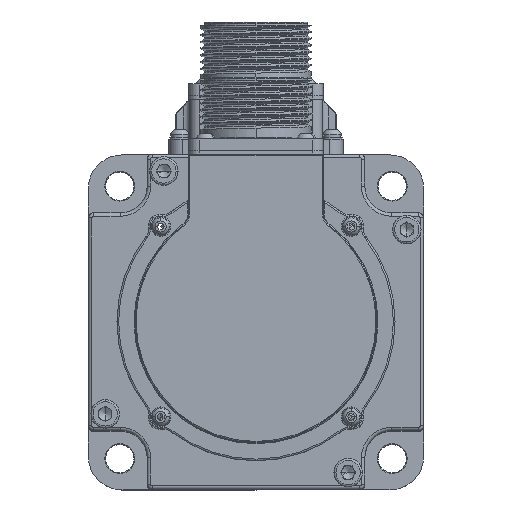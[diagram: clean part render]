
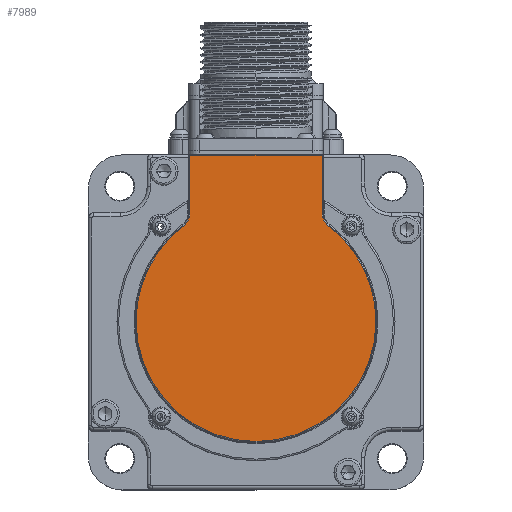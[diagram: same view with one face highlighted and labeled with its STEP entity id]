
A CAD part, top view. The second image highlights one B-rep face of the part: STEP entity #7989.
In plain terms, the highlighted planar face has unit normal (0, 0, 1).
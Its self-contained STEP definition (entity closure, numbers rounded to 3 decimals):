
#2034 = ORIENTED_EDGE ( 'NONE', *, *, #56563, .T. ) ;
#5311 = CARTESIAN_POINT ( 'NONE',  ( -32.072, 39.959, 280.4 ) ) ;
#5909 = VECTOR ( 'NONE', #14099, 1000. ) ;
#6236 = CARTESIAN_POINT ( 'NONE',  ( -15.972, -9.741, 280.4 ) ) ;
#6481 = AXIS2_PLACEMENT_3D ( 'NONE', #47613, #15928, #10325 ) ;
#6786 = VERTEX_POINT ( 'NONE', #54035 ) ;
#6817 = CARTESIAN_POINT ( 'NONE',  ( -51.772, -9.741, 280.4 ) ) ;
#7989 = ADVANCED_FACE ( 'NONE', ( #33083 ), #22249, .T. ) ;
#10202 = DIRECTION ( 'NONE',  ( 0., 0., 1. ) ) ;
#10325 = DIRECTION ( 'NONE',  ( 1., 0., 0. ) ) ;
#12010 = CIRCLE ( 'NONE', #35048, 5.3 ) ;
#14099 = DIRECTION ( 'NONE',  ( 0., -1., 0. ) ) ;
#14389 = AXIS2_PLACEMENT_3D ( 'NONE', #62982, #26585, #25361 ) ;
#14695 = CARTESIAN_POINT ( 'NONE',  ( -71.772, 39.959, 280.4 ) ) ;
#15916 = CARTESIAN_POINT ( 'NONE',  ( -71.472, 39.959, 280.4 ) ) ;
#15928 = DIRECTION ( 'NONE',  ( 0., 0., -1. ) ) ;
#17016 = EDGE_LOOP ( 'NONE', ( #59894, #74741, #70671, #42822, #24179, #2034, #60103, #77603 ) ) ;
#19182 = AXIS2_PLACEMENT_3D ( 'NONE', #6817, #31650, #37659 ) ;
#20696 = CARTESIAN_POINT ( 'NONE',  ( -76.772, 22.881, 280.4 ) ) ;
#22249 = PLANE ( 'NONE',  #29284 ) ;
#24021 = VERTEX_POINT ( 'NONE', #32406 ) ;
#24179 = ORIENTED_EDGE ( 'NONE', *, *, #42443, .T. ) ;
#24255 = CARTESIAN_POINT ( 'NONE',  ( -87.572, -9.741, 280.4 ) ) ;
#25361 = DIRECTION ( 'NONE',  ( 1., 0., 0. ) ) ;
#26225 = DIRECTION ( 'NONE',  ( 0., 1., 0. ) ) ;
#26585 = DIRECTION ( 'NONE',  ( 0., 0., 1. ) ) ;
#26768 = LINE ( 'NONE', #14695, #67845 ) ;
#27090 = DIRECTION ( 'NONE',  ( 1., 0., 0. ) ) ;
#28073 = VECTOR ( 'NONE', #26225, 1000. ) ;
#28153 = CIRCLE ( 'NONE', #19182, 35.8 ) ;
#29284 = AXIS2_PLACEMENT_3D ( 'NONE', #75825, #10202, #46308 ) ;
#31650 = DIRECTION ( 'NONE',  ( 0., 0., 1. ) ) ;
#32406 = CARTESIAN_POINT ( 'NONE',  ( -73.549, 18.674, 280.4 ) ) ;
#32605 = VERTEX_POINT ( 'NONE', #15916 ) ;
#33083 = FACE_OUTER_BOUND ( 'NONE', #17016, .T. ) ;
#33452 = DIRECTION ( 'NONE',  ( 1., 0., 0. ) ) ;
#34849 = VERTEX_POINT ( 'NONE', #6236 ) ;
#35048 = AXIS2_PLACEMENT_3D ( 'NONE', #20696, #69446, #27090 ) ;
#35348 = CARTESIAN_POINT ( 'NONE',  ( -29.996, 18.674, 280.4 ) ) ;
#37659 = DIRECTION ( 'NONE',  ( 1., 0., 0. ) ) ;
#41476 = EDGE_CURVE ( 'NONE', #65028, #6786, #71679, .T. ) ;
#42443 = EDGE_CURVE ( 'NONE', #62254, #34849, #65490, .T. ) ;
#42822 = ORIENTED_EDGE ( 'NONE', *, *, #57350, .T. ) ;
#44093 = CARTESIAN_POINT ( 'NONE',  ( -71.472, 22.881, 280.4 ) ) ;
#44979 = CARTESIAN_POINT ( 'NONE',  ( -71.472, 22.881, 280.4 ) ) ;
#45081 = CARTESIAN_POINT ( 'NONE',  ( -32.072, 40.259, 280.4 ) ) ;
#45119 = DIRECTION ( 'NONE',  ( 0., 0., 1. ) ) ;
#46308 = DIRECTION ( 'NONE',  ( 1., 0., 0. ) ) ;
#47613 = CARTESIAN_POINT ( 'NONE',  ( -26.772, 22.881, 280.4 ) ) ;
#49190 = EDGE_CURVE ( 'NONE', #54752, #24021, #12010, .T. ) ;
#54035 = CARTESIAN_POINT ( 'NONE',  ( -32.072, 22.881, 280.4 ) ) ;
#54752 = VERTEX_POINT ( 'NONE', #44093 ) ;
#56563 = EDGE_CURVE ( 'NONE', #34849, #65028, #67521, .T. ) ;
#57350 = EDGE_CURVE ( 'NONE', #24021, #62254, #28153, .T. ) ;
#57485 = LINE ( 'NONE', #45081, #28073 ) ;
#59304 = VERTEX_POINT ( 'NONE', #5311 ) ;
#59894 = ORIENTED_EDGE ( 'NONE', *, *, #64052, .T. ) ;
#60103 = ORIENTED_EDGE ( 'NONE', *, *, #41476, .T. ) ;
#61464 = EDGE_CURVE ( 'NONE', #32605, #54752, #68879, .T. ) ;
#62254 = VERTEX_POINT ( 'NONE', #24255 ) ;
#62533 = EDGE_CURVE ( 'NONE', #6786, #59304, #57485, .T. ) ;
#62982 = CARTESIAN_POINT ( 'NONE',  ( -51.772, -9.741, 280.4 ) ) ;
#64052 = EDGE_CURVE ( 'NONE', #59304, #32605, #26768, .T. ) ;
#65028 = VERTEX_POINT ( 'NONE', #35348 ) ;
#65490 = CIRCLE ( 'NONE', #14389, 35.8 ) ;
#67521 = CIRCLE ( 'NONE', #70113, 35.8 ) ;
#67845 = VECTOR ( 'NONE', #75121, 1000. ) ;
#68879 = LINE ( 'NONE', #44979, #5909 ) ;
#69446 = DIRECTION ( 'NONE',  ( 0., 0., -1. ) ) ;
#70113 = AXIS2_PLACEMENT_3D ( 'NONE', #75437, #45119, #33452 ) ;
#70671 = ORIENTED_EDGE ( 'NONE', *, *, #49190, .T. ) ;
#71679 = CIRCLE ( 'NONE', #6481, 5.3 ) ;
#74741 = ORIENTED_EDGE ( 'NONE', *, *, #61464, .T. ) ;
#75121 = DIRECTION ( 'NONE',  ( -1., 0., 0. ) ) ;
#75437 = CARTESIAN_POINT ( 'NONE',  ( -51.772, -9.741, 280.4 ) ) ;
#75825 = CARTESIAN_POINT ( 'NONE',  ( -51.772, -9.741, 280.4 ) ) ;
#77603 = ORIENTED_EDGE ( 'NONE', *, *, #62533, .T. ) ;
